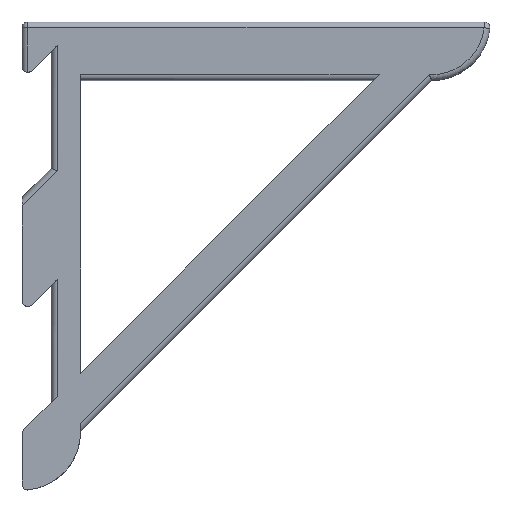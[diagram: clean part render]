
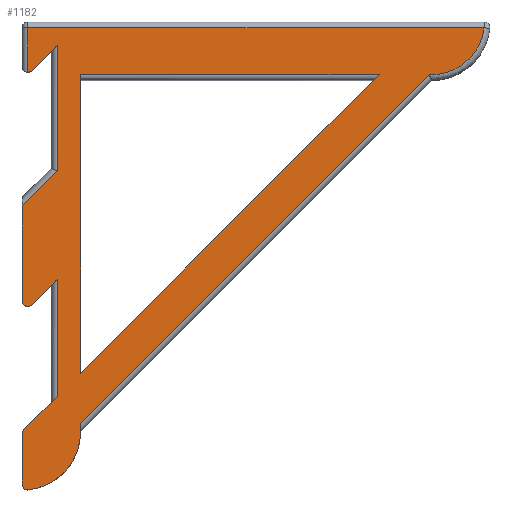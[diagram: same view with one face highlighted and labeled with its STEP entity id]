
A CAD part, top view. The second image highlights one B-rep face of the part: STEP entity #1182.
In plain terms, the highlighted planar face has unit normal (0, 0, 1).
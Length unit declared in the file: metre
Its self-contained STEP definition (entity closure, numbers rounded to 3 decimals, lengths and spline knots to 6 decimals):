
#60=CIRCLE('',#1261,0.0127);
#63=CIRCLE('',#1281,0.00127);
#64=CIRCLE('',#1282,0.00127);
#65=CIRCLE('',#1283,0.00127);
#66=CIRCLE('',#1284,0.01143);
#67=CIRCLE('',#1285,0.00127);
#194=ORIENTED_EDGE('',*,*,#509,.F.);
#195=ORIENTED_EDGE('',*,*,#535,.T.);
#196=ORIENTED_EDGE('',*,*,#536,.T.);
#197=ORIENTED_EDGE('',*,*,#462,.F.);
#198=ORIENTED_EDGE('',*,*,#537,.T.);
#199=ORIENTED_EDGE('',*,*,#520,.F.);
#200=ORIENTED_EDGE('',*,*,#538,.T.);
#201=ORIENTED_EDGE('',*,*,#526,.F.);
#202=ORIENTED_EDGE('',*,*,#539,.T.);
#203=ORIENTED_EDGE('',*,*,#528,.F.);
#204=ORIENTED_EDGE('',*,*,#540,.T.);
#205=ORIENTED_EDGE('',*,*,#490,.T.);
#206=ORIENTED_EDGE('',*,*,#541,.T.);
#207=ORIENTED_EDGE('',*,*,#542,.T.);
#208=ORIENTED_EDGE('',*,*,#543,.T.);
#209=ORIENTED_EDGE('',*,*,#544,.T.);
#210=ORIENTED_EDGE('',*,*,#545,.T.);
#211=ORIENTED_EDGE('',*,*,#546,.T.);
#212=ORIENTED_EDGE('',*,*,#533,.F.);
#213=ORIENTED_EDGE('',*,*,#482,.F.);
#462=EDGE_CURVE('',#637,#638,#741,.T.);
#482=EDGE_CURVE('',#657,#653,#759,.T.);
#490=EDGE_CURVE('',#660,#664,#60,.T.);
#509=EDGE_CURVE('',#681,#677,#780,.T.);
#520=EDGE_CURVE('',#690,#686,#790,.T.);
#526=EDGE_CURVE('',#694,#695,#796,.T.);
#528=EDGE_CURVE('',#696,#697,#797,.T.);
#533=EDGE_CURVE('',#653,#700,#802,.T.);
#535=EDGE_CURVE('',#681,#701,#803,.T.);
#536=EDGE_CURVE('',#701,#638,#804,.F.);
#537=EDGE_CURVE('',#637,#686,#63,.T.);
#538=EDGE_CURVE('',#690,#695,#805,.F.);
#539=EDGE_CURVE('',#694,#697,#64,.T.);
#540=EDGE_CURVE('',#696,#660,#65,.T.);
#541=EDGE_CURVE('',#664,#702,#806,.F.);
#542=EDGE_CURVE('',#702,#703,#66,.T.);
#543=EDGE_CURVE('',#703,#704,#807,.F.);
#544=EDGE_CURVE('',#704,#705,#808,.F.);
#545=EDGE_CURVE('',#705,#677,#67,.T.);
#546=EDGE_CURVE('',#657,#700,#809,.T.);
#637=VERTEX_POINT('',#1763);
#638=VERTEX_POINT('',#1764);
#653=VERTEX_POINT('',#1796);
#657=VERTEX_POINT('',#1803);
#660=VERTEX_POINT('',#1813);
#664=VERTEX_POINT('',#1824);
#677=VERTEX_POINT('',#1858);
#681=VERTEX_POINT('',#1865);
#686=VERTEX_POINT('',#1881);
#690=VERTEX_POINT('',#1888);
#694=VERTEX_POINT('',#1900);
#695=VERTEX_POINT('',#1902);
#696=VERTEX_POINT('',#1906);
#697=VERTEX_POINT('',#1907);
#700=VERTEX_POINT('',#1916);
#701=VERTEX_POINT('',#1920);
#702=VERTEX_POINT('',#1927);
#703=VERTEX_POINT('',#1929);
#704=VERTEX_POINT('',#1931);
#705=VERTEX_POINT('',#1933);
#741=LINE('',#1762,#858);
#759=LINE('',#1804,#876);
#780=LINE('',#1866,#897);
#790=LINE('',#1889,#907);
#796=LINE('',#1901,#913);
#797=LINE('',#1905,#914);
#802=LINE('',#1915,#919);
#803=LINE('',#1919,#920);
#804=LINE('',#1921,#921);
#805=LINE('',#1923,#922);
#806=LINE('',#1926,#923);
#807=LINE('',#1930,#924);
#808=LINE('',#1932,#925);
#809=LINE('',#1935,#926);
#858=VECTOR('',#1387,1.);
#876=VECTOR('',#1411,1.);
#897=VECTOR('',#1456,1.);
#907=VECTOR('',#1474,1.);
#913=VECTOR('',#1484,1.);
#914=VECTOR('',#1489,1.);
#919=VECTOR('',#1496,1.);
#920=VECTOR('',#1501,1.);
#921=VECTOR('',#1502,1.);
#922=VECTOR('',#1505,1.);
#923=VECTOR('',#1510,1.);
#924=VECTOR('',#1513,1.);
#925=VECTOR('',#1514,1.);
#926=VECTOR('',#1517,1.);
#992=EDGE_LOOP('',(#194,#195,#196,#197,#198,#199,#200,#201,#202,#203,#204,
#205,#206,#207,#208,#209,#210));
#993=EDGE_LOOP('',(#211,#212,#213));
#1071=FACE_BOUND('',#992,.T.);
#1072=FACE_BOUND('',#993,.T.);
#1147=PLANE('',#1280);
#1182=ADVANCED_FACE('',(#1071,#1072),#1147,.T.);
#1261=AXIS2_PLACEMENT_3D('',#1825,#1423,#1424);
#1280=AXIS2_PLACEMENT_3D('',#1918,#1499,#1500);
#1281=AXIS2_PLACEMENT_3D('',#1922,#1503,#1504);
#1282=AXIS2_PLACEMENT_3D('',#1924,#1506,#1507);
#1283=AXIS2_PLACEMENT_3D('',#1925,#1508,#1509);
#1284=AXIS2_PLACEMENT_3D('',#1928,#1511,#1512);
#1285=AXIS2_PLACEMENT_3D('',#1934,#1515,#1516);
#1387=DIRECTION('',(0.,1.,0.));
#1411=DIRECTION('',(0.,-1.,0.));
#1423=DIRECTION('',(0.,0.,1.));
#1424=DIRECTION('',(1.,0.,0.));
#1456=DIRECTION('',(-0.707,-0.707,0.));
#1474=DIRECTION('',(-0.707,-0.707,0.));
#1484=DIRECTION('',(0.707,0.707,0.));
#1489=DIRECTION('',(0.,1.,0.));
#1496=DIRECTION('',(0.707,0.707,0.));
#1499=DIRECTION('',(0.,0.,1.));
#1500=DIRECTION('',(1.,0.,0.));
#1501=DIRECTION('',(0.,-1.,0.));
#1502=DIRECTION('',(0.707,0.707,0.));
#1503=DIRECTION('',(0.,0.,1.));
#1504=DIRECTION('',(1.,0.,0.));
#1505=DIRECTION('',(0.,1.,0.));
#1506=DIRECTION('',(0.,0.,1.));
#1507=DIRECTION('',(1.,0.,0.));
#1508=DIRECTION('',(0.,0.,1.));
#1509=DIRECTION('',(1.,0.,0.));
#1510=DIRECTION('',(-0.707,-0.707,0.));
#1511=DIRECTION('',(0.,0.,1.));
#1512=DIRECTION('',(1.,0.,0.));
#1513=DIRECTION('',(1.,0.,0.));
#1514=DIRECTION('',(0.,1.,0.));
#1515=DIRECTION('',(0.,0.,1.));
#1516=DIRECTION('',(1.,0.,0.));
#1517=DIRECTION('',(1.,0.,0.));
#1762=CARTESIAN_POINT('',(-0.00635,0.003175,0.0127));
#1763=CARTESIAN_POINT('',(-0.00635,-0.009634,0.0127));
#1764=CARTESIAN_POINT('',(-0.00635,0.010904,0.0127));
#1796=CARTESIAN_POINT('',(0.00635,-0.0254,0.0127));
#1803=CARTESIAN_POINT('',(0.00635,0.03937,0.0127));
#1804=CARTESIAN_POINT('',(0.00635,-0.0127,0.0127));
#1813=CARTESIAN_POINT('',(-0.004939,-0.050721,0.0127));
#1824=CARTESIAN_POINT('',(0.006238,-0.036416,0.0127));
#1825=CARTESIAN_POINT('',(-0.00635,-0.0381,0.0127));
#1858=CARTESIAN_POINT('',(-0.004182,0.040268,0.0127));
#1865=CARTESIAN_POINT('',(0.00127,0.04572,0.0127));
#1866=CARTESIAN_POINT('',(-0.003175,0.041275,0.0127));
#1881=CARTESIAN_POINT('',(-0.004182,-0.010532,0.0127));
#1888=CARTESIAN_POINT('',(0.00127,-0.00508,0.0127));
#1889=CARTESIAN_POINT('',(-0.003175,-0.009525,0.0127));
#1900=CARTESIAN_POINT('',(-0.005978,-0.037728,0.0127));
#1901=CARTESIAN_POINT('',(-0.003175,-0.034925,0.0127));
#1902=CARTESIAN_POINT('',(0.00127,-0.03048,0.0127));
#1905=CARTESIAN_POINT('',(-0.00635,-0.04445,0.0127));
#1906=CARTESIAN_POINT('',(-0.00635,-0.049459,0.0127));
#1907=CARTESIAN_POINT('',(-0.00635,-0.038626,0.0127));
#1915=CARTESIAN_POINT('',(0.0381,0.00635,0.0127));
#1916=CARTESIAN_POINT('',(0.07112,0.03937,0.0127));
#1918=CARTESIAN_POINT('',(0.04445,0.,0.0127));
#1919=CARTESIAN_POINT('',(0.00127,0.01905,0.0127));
#1920=CARTESIAN_POINT('',(0.00127,0.018524,0.0127));
#1921=CARTESIAN_POINT('',(0.013598,0.030852,0.0127));
#1922=CARTESIAN_POINT('',(-0.00508,-0.009634,0.0127));
#1923=CARTESIAN_POINT('',(0.00127,0.,0.0127));
#1924=CARTESIAN_POINT('',(-0.00508,-0.038626,0.0127));
#1925=CARTESIAN_POINT('',(-0.00508,-0.049459,0.0127));
#1926=CARTESIAN_POINT('',(0.043552,0.000898,0.0127));
#1927=CARTESIAN_POINT('',(0.082036,0.039382,0.0127));
#1928=CARTESIAN_POINT('',(0.08255,0.0508,0.0127));
#1929=CARTESIAN_POINT('',(0.093909,0.04953,0.0127));
#1930=CARTESIAN_POINT('',(0.04445,0.04953,0.0127));
#1931=CARTESIAN_POINT('',(-0.00508,0.04953,0.0127));
#1932=CARTESIAN_POINT('',(-0.00508,0.,0.0127));
#1933=CARTESIAN_POINT('',(-0.00508,0.039896,0.0127));
#1934=CARTESIAN_POINT('',(-0.00508,0.041166,0.0127));
#1935=CARTESIAN_POINT('',(0.06985,0.03937,0.0127));
